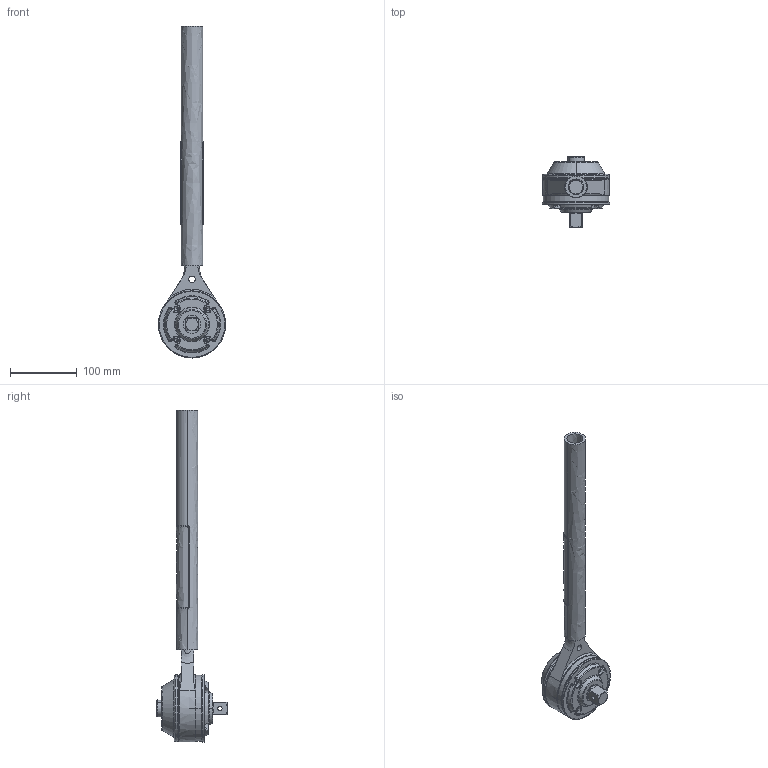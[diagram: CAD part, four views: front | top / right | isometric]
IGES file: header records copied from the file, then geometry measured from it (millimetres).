
Start section:  PTC IGES file: E391.igs
Global section: file name: E391.igs; native system: Creo Parametric by Parametric Technology Corporation; preprocessor: 2014200; author: mike.ward; organization: Unknown; date: 20151019.112639; units: inch
Bounding box: 100.46 x 105.28 x 496.51 mm (x, y, z)
Volume: 407117.9 mm3; surface area: 167860.9 mm2
Topology: 4 solids, 5 shells, 768 faces, 2080 edges, 1326 vertices
Faces by surface type: revolution 470, extrusion 152, bspline 146
